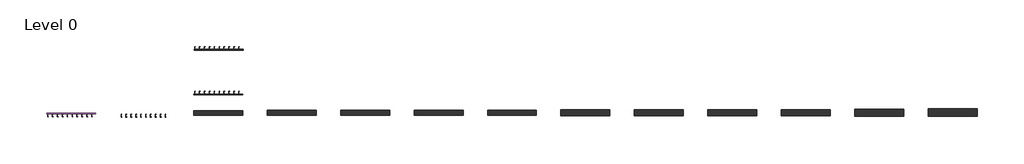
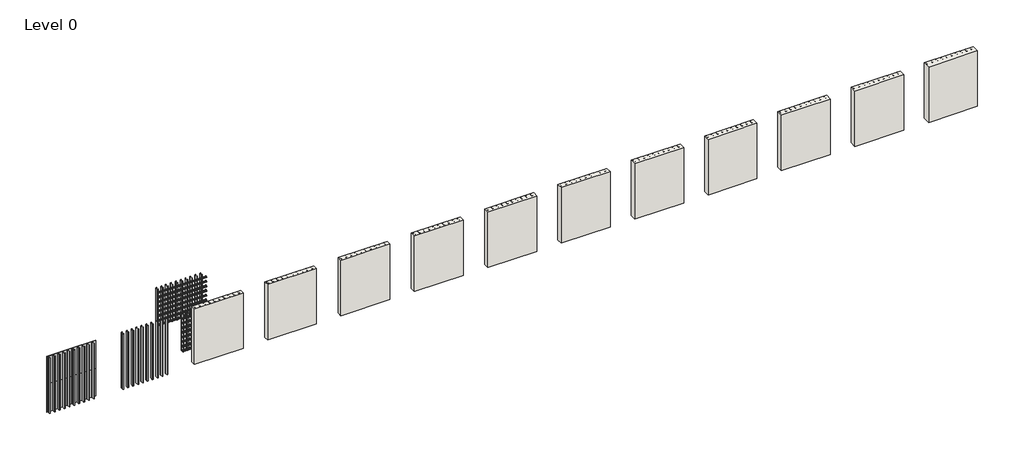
# One storey, incomplete: 17 fasteners, 11 walls, 4 plates.
"""IFC4 building model written with IfcOpenShell, lengths in millimetres."""

from ifc_helpers import new_model, si_unit, origin, origin_with_axes, place, context, project, spatial, polyline, outline, extrude, transform, mapped, element, save
from components import fastener_f7e8d427, fastener_a8222be2, fastener_300b955e, metal_stud_substrate_e28d9b51, metal_stud_substrate_c954c151, system_panel_glazed_ae204111

model = new_model("IFC4")

# Units and contexts
model_context = context("Model", 3, world=origin())
ifc_project = project(units=[si_unit("LENGTHUNIT", "METRE", prefix="MILLI")], contexts=[model_context])

# Site, building, storey
site = spatial("IfcSite", under=ifc_project)
building = spatial("IfcBuilding", under=site)
storey = spatial("IfcBuildingStorey", under=building, Name="Level 0", Elevation=0.0)

# Fasteners
placement = place(None, origin())
fastener_shape = fastener_f7e8d427(model_context)
fastener_2_shape = fastener_a8222be2(model_context)
fastener_3_shape = fastener_300b955e(model_context)
element("IfcFastener", 1, ObjectType="Structural-Supporting-Components_Advanced-Architectural-Products_SMARTci_(On Open Framing) : SMARTci (On Open Framing) 1.5\"", at=placement, inside=storey, context=model_context, shape_type="MappedRepresentation", body=[
    mapped(fastener_shape, transform((-9506.1103363, 8237.3492928, 0.0), x_axis=(1.0, 0.0, 0.0), y_axis=(0.0, 1.0, 0.0), z_axis=(0.0, 0.0, 1.0))),
    mapped(fastener_2_shape, transform((-9506.1103363, 8237.3492928, 0.0), x_axis=(1.0, 0.0, 0.0), y_axis=(0.0, 1.0, 0.0), z_axis=(0.0, 0.0, 1.0))),
    mapped(fastener_3_shape, transform((-9506.1103363, 8237.3492928, 0.0), x_axis=(1.0, 0.0, 0.0), y_axis=(0.0, 1.0, 0.0), z_axis=(0.0, 0.0, 1.0))),
])
element("IfcFastener", 2, ObjectType="Structural-Supporting-Components_Advanced-Architectural-Products_SMARTci_(On Open Framing) : SMARTci (On Open Framing) 1.5\"", at=placement, inside=storey, context=model_context, shape_type="MappedRepresentation", body=[
    mapped(fastener_shape, transform((-9468.8738583, 10548.7368998, 0.0), x_axis=(1.0, 0.0, 0.0), y_axis=(0.0, 1.0, 0.0), z_axis=(0.0, 0.0, 1.0))),
    mapped(fastener_2_shape, transform((-9468.8738583, 10548.7368998, 0.0), x_axis=(1.0, 0.0, 0.0), y_axis=(0.0, 1.0, 0.0), z_axis=(0.0, 0.0, 1.0))),
    mapped(fastener_3_shape, transform((-9468.8738583, 10548.7368998, 0.0), x_axis=(1.0, 0.0, 0.0), y_axis=(0.0, 1.0, 0.0), z_axis=(0.0, 0.0, 1.0))),
])
metal_stud_substrate_shape = metal_stud_substrate_e28d9b51(model_context)
element("IfcFastener", 3, ObjectType="Structural-Supporting-Components_Advanced-Architectural-Products_Metal-Stud-Substrate : Metal Stud Substrate", at=placement, inside=storey, context=model_context, shape_type="MappedRepresentation", body=[
    mapped(metal_stud_substrate_shape, transform((-9509.3679784, 7347.4836599, 0.0), x_axis=(1.0, 0.0, 0.0), y_axis=(0.0, 1.0, 0.0), z_axis=(0.0, 0.0, 1.0))),
])
element("IfcFastener", 4, ObjectType="Structural-Supporting-Components_Advanced-Architectural-Products_Metal-Stud-Substrate : Metal Stud Substrate", at=placement, inside=storey, context=model_context, shape_type="MappedRepresentation", body=[
    mapped(metal_stud_substrate_shape, transform((-5699.3679784, 7366.5336599, 0.0), x_axis=(1.0, 0.0, 0.0), y_axis=(0.0, 1.0, 0.0), z_axis=(0.0, 0.0, 1.0))),
])
element("IfcFastener", 5, ObjectType="Structural-Supporting-Components_Advanced-Architectural-Products_Metal-Stud-Substrate : Metal Stud Substrate", at=placement, inside=storey, context=model_context, shape_type="MappedRepresentation", body=[
    mapped(metal_stud_substrate_shape, transform((-1889.3679784, 7372.8836599, 0.0), x_axis=(1.0, 0.0, 0.0), y_axis=(0.0, 1.0, 0.0), z_axis=(0.0, 0.0, 1.0))),
])
element("IfcFastener", 6, ObjectType="Structural-Supporting-Components_Advanced-Architectural-Products_Metal-Stud-Substrate : Metal Stud Substrate", at=placement, inside=storey, context=model_context, shape_type="MappedRepresentation", body=[
    mapped(metal_stud_substrate_shape, transform((1920.6320216, 7379.2336599, 0.0), x_axis=(1.0, 0.0, 0.0), y_axis=(0.0, 1.0, 0.0), z_axis=(0.0, 0.0, 1.0))),
])
element("IfcFastener", 7, ObjectType="Structural-Supporting-Components_Advanced-Architectural-Products_Metal-Stud-Substrate : Metal Stud Substrate", at=placement, inside=storey, context=model_context, shape_type="MappedRepresentation", body=[
    mapped(metal_stud_substrate_shape, transform((5730.6320216, 7385.5836599, 0.0), x_axis=(1.0, 0.0, 0.0), y_axis=(0.0, 1.0, 0.0), z_axis=(0.0, 0.0, 1.0))),
])
element("IfcFastener", 8, ObjectType="Structural-Supporting-Components_Advanced-Architectural-Products_Metal-Stud-Substrate : Metal Stud Substrate", at=placement, inside=storey, context=model_context, shape_type="MappedRepresentation", body=[
    mapped(metal_stud_substrate_shape, transform((9540.6320216, 7391.9336599, 0.0), x_axis=(1.0, 0.0, 0.0), y_axis=(0.0, 1.0, 0.0), z_axis=(0.0, 0.0, 1.0))),
])
element("IfcFastener", 9, ObjectType="Structural-Supporting-Components_Advanced-Architectural-Products_Metal-Stud-Substrate : Metal Stud Substrate", at=placement, inside=storey, context=model_context, shape_type="MappedRepresentation", body=[
    mapped(metal_stud_substrate_shape, transform((13350.6320216, 7398.2836599, 0.0), x_axis=(1.0, 0.0, 0.0), y_axis=(0.0, 1.0, 0.0), z_axis=(0.0, 0.0, 1.0))),
])
element("IfcFastener", 10, ObjectType="Structural-Supporting-Components_Advanced-Architectural-Products_Metal-Stud-Substrate : Metal Stud Substrate", at=placement, inside=storey, context=model_context, shape_type="MappedRepresentation", body=[
    mapped(metal_stud_substrate_shape, transform((17160.6320216, 7404.6336599, 0.0), x_axis=(1.0, 0.0, 0.0), y_axis=(0.0, 1.0, 0.0), z_axis=(0.0, 0.0, 1.0))),
])
element("IfcFastener", 11, ObjectType="Structural-Supporting-Components_Advanced-Architectural-Products_Metal-Stud-Substrate : Metal Stud Substrate", at=placement, inside=storey, context=model_context, shape_type="MappedRepresentation", body=[
    mapped(metal_stud_substrate_shape, transform((20970.6320216, 7410.9836599, 0.0), x_axis=(1.0, 0.0, 0.0), y_axis=(0.0, 1.0, 0.0), z_axis=(0.0, 0.0, 1.0))),
])
element("IfcFastener", 12, ObjectType="Structural-Supporting-Components_Advanced-Architectural-Products_Metal-Stud-Substrate : Metal Stud Substrate", at=placement, inside=storey, context=model_context, shape_type="MappedRepresentation", body=[
    mapped(metal_stud_substrate_shape, transform((24780.6320216, 7417.3336599, 0.0), x_axis=(1.0, 0.0, 0.0), y_axis=(0.0, 1.0, 0.0), z_axis=(0.0, 0.0, 1.0))),
])
element("IfcFastener", 13, ObjectType="Structural-Supporting-Components_Advanced-Architectural-Products_Metal-Stud-Substrate : Metal Stud Substrate", at=placement, inside=storey, context=model_context, shape_type="MappedRepresentation", body=[
    mapped(metal_stud_substrate_shape, transform((28590.6320216, 7442.7336599, 0.0), x_axis=(1.0, 0.0, 0.0), y_axis=(0.0, 1.0, 0.0), z_axis=(0.0, 0.0, 1.0))),
])
element("IfcFastener", 14, ObjectType="Structural-Supporting-Components_Advanced-Architectural-Products_Metal-Stud-Substrate : Metal Stud Substrate", at=placement, inside=storey, context=model_context, shape_type="MappedRepresentation", body=[
    mapped(metal_stud_substrate_shape, transform((-13319.3679784, 7196.0836599, 0.0), x_axis=(1.0, 0.0, 0.0), y_axis=(0.0, 1.0, 0.0), z_axis=(0.0, 0.0, 1.0))),
])
element("IfcFastener", 15, ObjectType="Structural-Supporting-Components_Advanced-Architectural-Products_Metal-Stud-Substrate : Metal Stud Substrate", at=placement, inside=storey, context=model_context, shape_type="MappedRepresentation", body=[
    mapped(metal_stud_substrate_shape, transform((-17129.2493423, 7209.5836599, 0.0), x_axis=(1.0, 0.0, 0.0), y_axis=(0.0, 1.0, 0.0), z_axis=(0.0, 0.0, 1.0))),
])
metal_stud_substrate_2_shape = metal_stud_substrate_c954c151(model_context)
element("IfcFastener", 16, ObjectType="Structural-Supporting-Components_Advanced-Architectural-Products_Metal-Stud-Substrate : Metal Stud Substrate", at=placement, inside=storey, context=model_context, shape_type="MappedRepresentation", body=[
    mapped(metal_stud_substrate_2_shape, transform((-9509.3679784, 8389.6836599, 0.0), x_axis=(1.0, 0.0, 0.0), y_axis=(0.0, 1.0, 0.0), z_axis=(0.0, 0.0, 1.0))),
])
element("IfcFastener", 17, ObjectType="Structural-Supporting-Components_Advanced-Architectural-Products_Metal-Stud-Substrate : Metal Stud Substrate", at=placement, inside=storey, context=model_context, shape_type="MappedRepresentation", body=[
    mapped(metal_stud_substrate_2_shape, transform((-9509.3679784, 10701.0836599, 0.0), x_axis=(1.0, 0.0, 0.0), y_axis=(0.0, 1.0, 0.0), z_axis=(0.0, 0.0, 1.0))),
])

# Plates
system_panel_glazed_shape = system_panel_glazed_ae204111(model_context)
element("IfcPlate", 18, ObjectType="System Panel : Glazed", at=placement, inside=storey, context=model_context, shape_type="MappedRepresentation", body=[
    mapped(system_panel_glazed_shape, transform((-16494.2493421, 7259.0836599, 0.0), x_axis=(1.0, 0.0, 0.0), y_axis=(0.0, 1.0, 0.0), z_axis=(0.0, 0.0, 1.0))),
])
element("IfcPlate", 19, ObjectType="System Panel : Glazed", at=placement, inside=storey, context=model_context, shape_type="MappedRepresentation", body=[
    mapped(system_panel_glazed_shape, transform((-15224.2493421, 7259.0836599, 0.0), x_axis=(1.0, 0.0, 0.0), y_axis=(0.0, 1.0, 0.0), z_axis=(0.0, 0.0, 1.0))),
])
element("IfcPlate", 20, ObjectType="System Panel : Glazed", at=placement, inside=storey, context=model_context, shape_type="MappedRepresentation", body=[
    mapped(system_panel_glazed_shape, transform((-16494.2493421, 7259.0836599, 1524.0), x_axis=(1.0, 0.0, 0.0), y_axis=(0.0, 1.0, 0.0), z_axis=(0.0, 0.0, 1.0))),
])
element("IfcPlate", 21, ObjectType="System Panel : Glazed", at=placement, inside=storey, context=model_context, shape_type="MappedRepresentation", body=[
    mapped(system_panel_glazed_shape, transform((-15224.2493421, 7259.0836599, 1524.0), x_axis=(1.0, 0.0, 0.0), y_axis=(0.0, 1.0, 0.0), z_axis=(0.0, 0.0, 1.0))),
])

# Walls
element("IfcWall", 22, ObjectType="AAP Wall-Ext_1.5\" Fiberglass Batt, Air", at=placement, inside=storey, context=model_context, shape_type="SweptSolid", body=[
    extrude(outline(polyline([(-6969.3679784, 7144.4836599), (-9509.3679784, 7144.4836599), (-9509.3679784, 7372.8836599), (-6969.3679784, 7372.8836599), (-6969.3679784, 7144.4836599)])), origin_with_axes(), (0.0, 0.0, 1.0), 3048.0),
])
element("IfcWall", 23, ObjectType="AAP Wall-Ext_2.0\" Fiberglass Batt, Air", at=placement, inside=storey, context=model_context, shape_type="SweptSolid", body=[
    extrude(outline(polyline([(-3159.3679784, 7150.8336599), (-5699.3679784, 7150.8336599), (-5699.3679784, 7391.9336599), (-3159.3679784, 7391.9336599), (-3159.3679784, 7150.8336599)])), origin_with_axes(), (0.0, 0.0, 1.0), 3048.0),
])
element("IfcWall", 24, ObjectType="AAP Wall-Ext_2.5\" Fiberglass Batt, Air", at=placement, inside=storey, context=model_context, shape_type="SweptSolid", body=[
    extrude(outline(polyline([(650.6320216, 7144.4836599), (-1889.3679784, 7144.4836599), (-1889.3679784, 7398.2836599), (650.6320216, 7398.2836599), (650.6320216, 7144.4836599)])), origin_with_axes(), (0.0, 0.0, 1.0), 3048.0),
])
element("IfcWall", 25, ObjectType="AAP Wall-Ext_3.0\" Fiberglass Batt, Air", at=placement, inside=storey, context=model_context, shape_type="SweptSolid", body=[
    extrude(outline(polyline([(4460.6320216, 7138.1336599), (1920.6320216, 7138.1336599), (1920.6320216, 7404.6336599), (4460.6320216, 7404.6336599), (4460.6320216, 7138.1336599)])), origin_with_axes(), (0.0, 0.0, 1.0), 3048.0),
])
element("IfcWall", 26, ObjectType="AAP Wall-Ext_3.5\" Fiberglass Batt, Air", at=placement, inside=storey, context=model_context, shape_type="SweptSolid", body=[
    extrude(outline(polyline([(8270.6320216, 7131.7836599), (5730.6320216, 7131.7836599), (5730.6320216, 7410.9836599), (8270.6320216, 7410.9836599), (8270.6320216, 7131.7836599)])), origin_with_axes(), (0.0, 0.0, 1.0), 3048.0),
])
element("IfcWall", 27, ObjectType="AAP Wall-Ext_4.0\" Fiberglass Batt, Air", at=placement, inside=storey, context=model_context, shape_type="SweptSolid", body=[
    extrude(outline(polyline([(12080.6320216, 7125.4336599), (9540.6320216, 7125.4336599), (9540.6320216, 7417.3336599), (12080.6320216, 7417.3336599), (12080.6320216, 7125.4336599)])), origin_with_axes(), (0.0, 0.0, 1.0), 3048.0),
])
element("IfcWall", 28, ObjectType="AAP Wall-Ext_4.5\" Fiberglass Batt, Air", at=placement, inside=storey, context=model_context, shape_type="SweptSolid", body=[
    extrude(outline(polyline([(15890.6320216, 7119.0836599), (13350.6320216, 7119.0836599), (13350.6320216, 7423.6836599), (15890.6320216, 7423.6836599), (15890.6320216, 7119.0836599)])), origin_with_axes(), (0.0, 0.0, 1.0), 3048.0),
])
element("IfcWall", 29, ObjectType="AAP Wall-Ext_5.0\" Fiberglass Batt, Air", at=placement, inside=storey, context=model_context, shape_type="SweptSolid", body=[
    extrude(outline(polyline([(19700.6320216, 7112.7336599), (17160.6320216, 7112.7336599), (17160.6320216, 7430.0336599), (19700.6320216, 7430.0336599), (19700.6320216, 7112.7336599)])), origin_with_axes(), (0.0, 0.0, 1.0), 3048.0),
])
element("IfcWall", 30, ObjectType="AAP Wall-Ext_5.5\" Fiberglass Batt, Air", at=placement, inside=storey, context=model_context, shape_type="SweptSolid", body=[
    extrude(outline(polyline([(23510.6320216, 7106.3836599), (20970.6320216, 7106.3836599), (20970.6320216, 7436.3836599), (23510.6320216, 7436.3836599), (23510.6320216, 7106.3836599)])), origin_with_axes(), (0.0, 0.0, 1.0), 3048.0),
])
element("IfcWall", 31, ObjectType="AAP Wall-Ext_6.0\" Fiberglass Batt, Air", at=placement, inside=storey, context=model_context, shape_type="SweptSolid", body=[
    extrude(outline(polyline([(27320.6320216, 7100.0336599), (24780.6320216, 7100.0336599), (24780.6320216, 7442.7336599), (27320.6320216, 7442.7336599), (27320.6320216, 7100.0336599)])), origin_with_axes(), (0.0, 0.0, 1.0), 3048.0),
])
element("IfcWall", 32, ObjectType="AAP Wall-Ext_8.0\" Fiberglass Batt, Air", at=placement, inside=storey, context=model_context, shape_type="SweptSolid", body=[
    extrude(outline(polyline([(31130.6320216, 7074.6336599), (28590.6320216, 7074.6336599), (28590.6320216, 7468.1336599), (31130.6320216, 7468.1336599), (31130.6320216, 7074.6336599)])), origin_with_axes(), (0.0, 0.0, 1.0), 3048.0),
])

save(model, "model.ifc")
